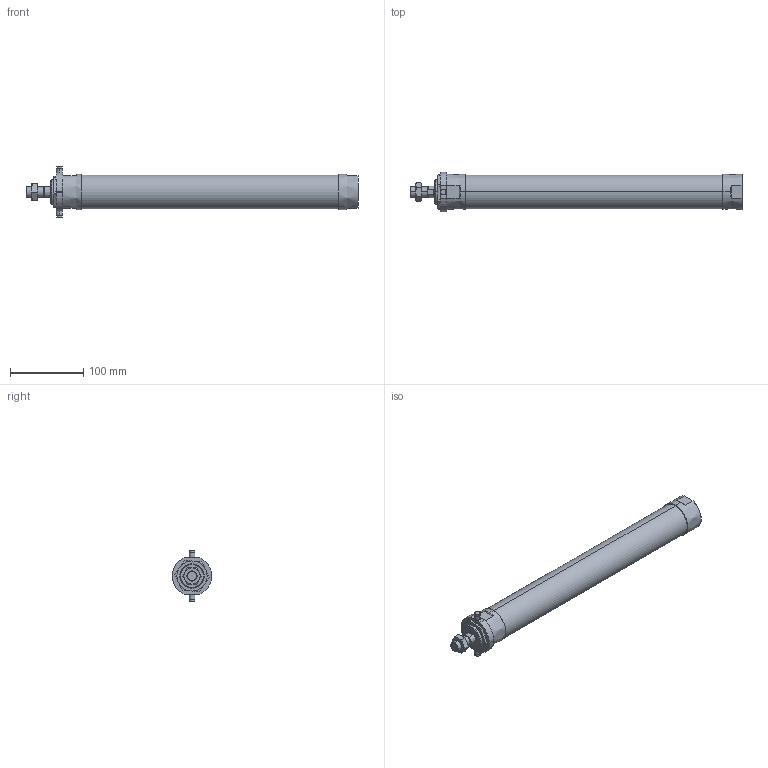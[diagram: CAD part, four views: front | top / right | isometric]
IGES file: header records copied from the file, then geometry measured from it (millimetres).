
Start section: SolidWorks IGES file using analytic representation for surfaces
Global section: file name: C:\Users\Toshiba\Desktop\JGND2-40-300-T.IGS; native system: SolidWorks 2014; preprocessor: SolidWorks 2014; author: Toshiba; date: 160804.111658; units: millimetre
Bounding box: 453 x 54 x 70 mm (x, y, z)
Surface area: 76028.6 mm2 (no closed solid volume)
Topology: 0 solids, 0 shells, 116 faces, 2138 edges, 2134 vertices
Faces by surface type: bspline 62, revolution 54
